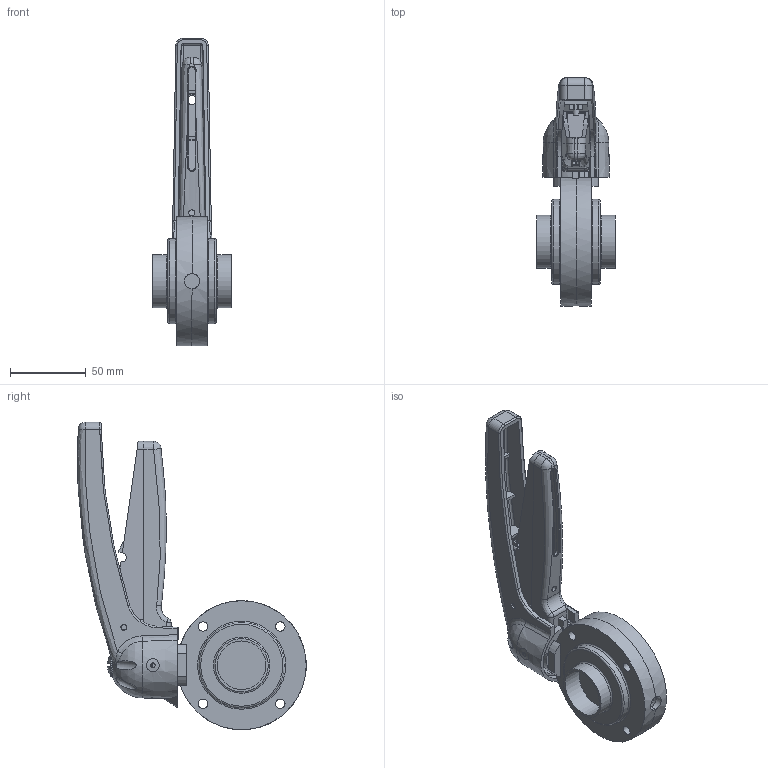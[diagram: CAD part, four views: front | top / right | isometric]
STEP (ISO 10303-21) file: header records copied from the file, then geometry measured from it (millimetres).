
FILE_DESCRIPTION(/* description */ ('VVF VALV.FARF.DN 35X1.5 SS EPDM 316 LEVA 5POS.'),/* implementation_level */ '2;1');
FILE_NAME(/* name */ 'C:\_DED_PWS\GIOR-G\DB\B\EBA\BEBACG032BEAA-00^SAGOMA.step',/* time_stamp */ '2020-04-08T11:53:25+02:00',/* author */ (''),/* organization */ (''),/* preprocessor_version */ 'ST-DEVELOPER v18',/* originating_system */ 'Autodesk Inventor 2020',/* authorisation */ '');
FILE_SCHEMA (('CONFIG_CONTROL_DESIGN'));
Length unit declared in the file: millimetre
Products named in the file (3): BEBACG032BEAA; Maniglia-5-posizioni-nuova-versione finale 01-2008- 25 - - 65; TWD006032BBA
Assembly tree (3 placements, depth 2):
  BEBACG032BEAA
    Maniglia-5-posizioni-nuova-versione finale 01-2008- 25 - - 65
    TWD006032BBA  x2
Bounding box: 52 x 150.39 x 202.5 mm (x, y, z)
Volume: 248358 mm3; surface area: 92100.6 mm2
Topology: 3 solids, 4 shells, 448 faces, 1203 edges, 780 vertices
Faces by surface type: plane 200, cylinder 104, bspline 81, cone 28, sphere 20, torus 15
Full cylindrical faces by diameter (mm): 4 x3, 6 x2, 6.2 x8, 6.5 x1, 13 x3, 14.5 x1, 32 x2, 35 x2, 56 x2, 85 x2
Entity records: 22702 total; most frequent: CARTESIAN_POINT 12087, ORIENTED_EDGE 2270, DIRECTION 1927, EDGE_CURVE 1135, VERTEX_POINT 731, AXIS2_PLACEMENT_3D 696, LINE 535, VECTOR 535
